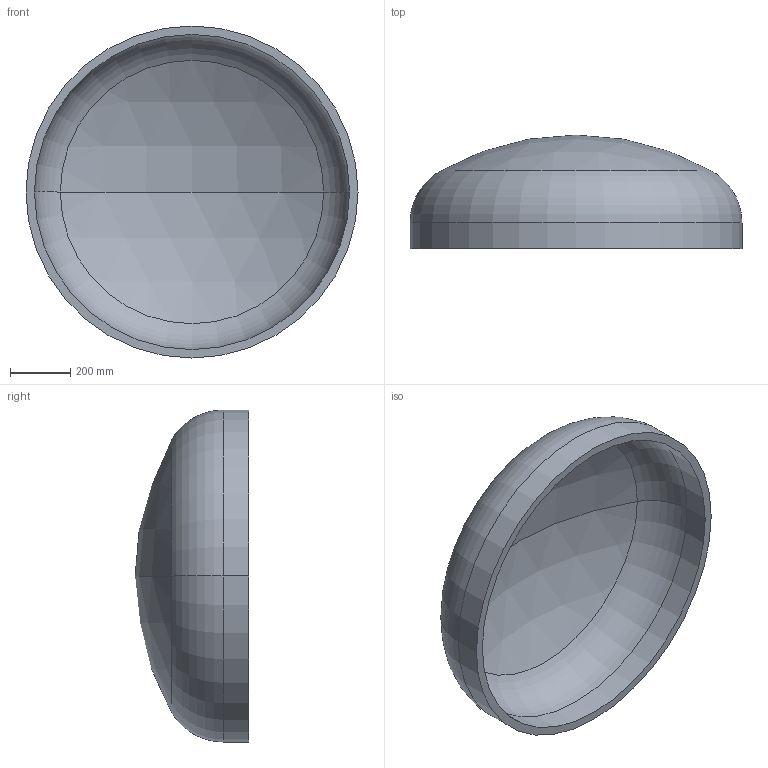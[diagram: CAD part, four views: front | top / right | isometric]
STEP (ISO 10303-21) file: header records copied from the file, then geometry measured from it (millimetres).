
FILE_DESCRIPTION (( 'STEP AP203' ), '1' );
FILE_NAME ('DIN 28013 Korbbogenform_-_Boden DIN 28013 - 1100 x 85 - I - s=28.step', '2016-07-01T09:04:49', ( '' ), ( '' ), 'SwSTEP 2.0', 'SolidWorks 2013', '' );
FILE_SCHEMA (( 'CONFIG_CONTROL_DESIGN' ));
Length unit declared in the file: millimetre
Products named in the file (1): DIN 28013 Korbbogenform_-_Boden DIN 28013 - 1100 x 85 - I - s=28
Bounding box: 1100 x 376.4 x 1100 mm (x, y, z)
Volume: 43684362.3 mm3; surface area: 3216250.7 mm2
Topology: 1 solids, 1 shells, 13 faces, 24 edges, 14 vertices
Faces by surface type: torus 4, cylinder 4, sphere 4, plane 1
Entity records: 407 total; most frequent: DIRECTION 72, CARTESIAN_POINT 52, ORIENTED_EDGE 48, AXIS2_PLACEMENT_3D 34, EDGE_CURVE 24, CIRCLE 20, EDGE_LOOP 14, VERTEX_POINT 14
